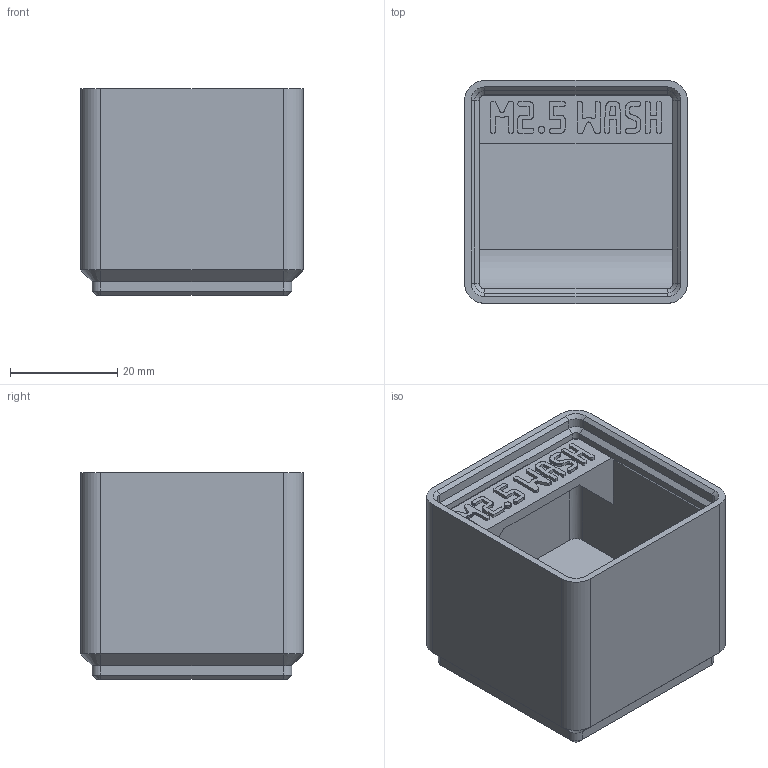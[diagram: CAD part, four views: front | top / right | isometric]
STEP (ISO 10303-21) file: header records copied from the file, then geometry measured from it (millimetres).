
FILE_DESCRIPTION(('Open CASCADE Model'),'2;1');
FILE_NAME('Open CASCADE Shape Model','2026-11-03T10:36:07',('Author'),( 'Open CASCADE'),'Open CASCADE STEP processor 8.0','build123d', 'Unknown');
FILE_SCHEMA(('AUTOMOTIVE_DESIGN { 1 0 10303 214 1 1 1 1 }'));
Products named in the file (1): COMPOUND
Bounding box: 41.5 x 41.5 x 38.55 mm (x, y, z)
Volume: 27588.9 mm3; surface area: 13905.8 mm2
Topology: 1 solids, 1 shells, 920 faces, 2664 edges, 1756 vertices
Faces by surface type: plane 879, cylinder 21, cone 20
Entity records: 62671 total; most frequent: CARTESIAN_POINT 12855, DIRECTION 8009, LINE 6052, VECTOR 6052, ORIENTED_EDGE 5328, PCURVE 5328, DEFINITIONAL_REPRESENTATION 5328, EDGE_CURVE 2664
